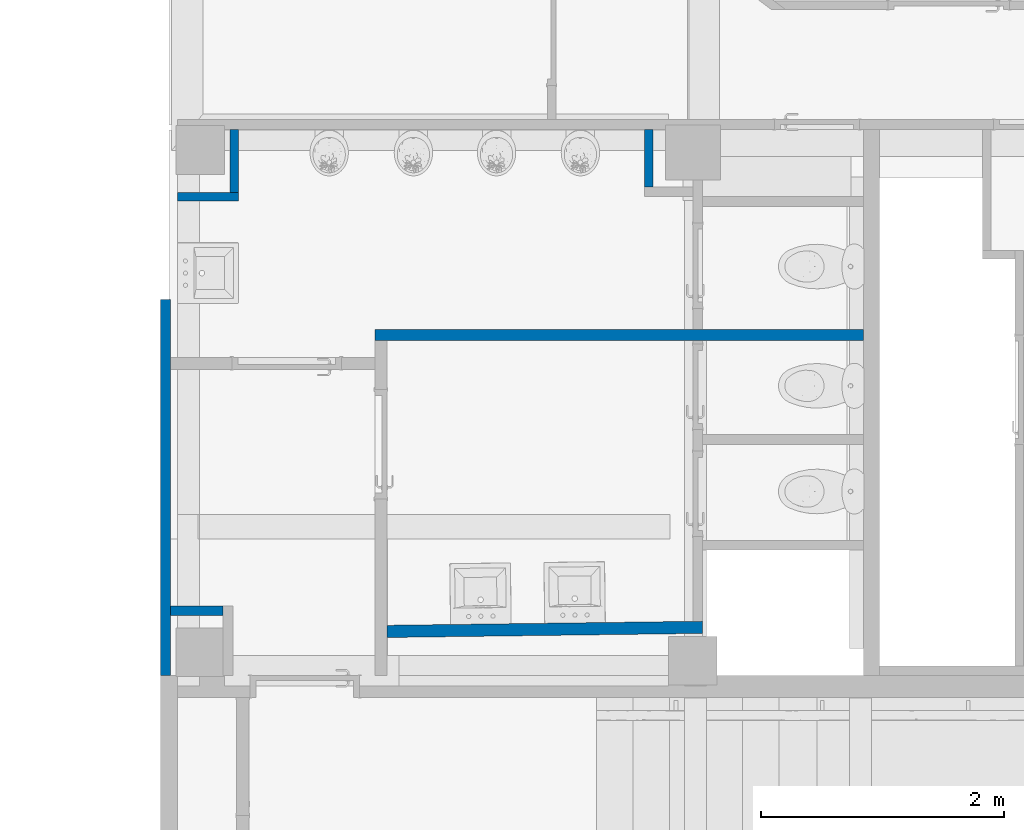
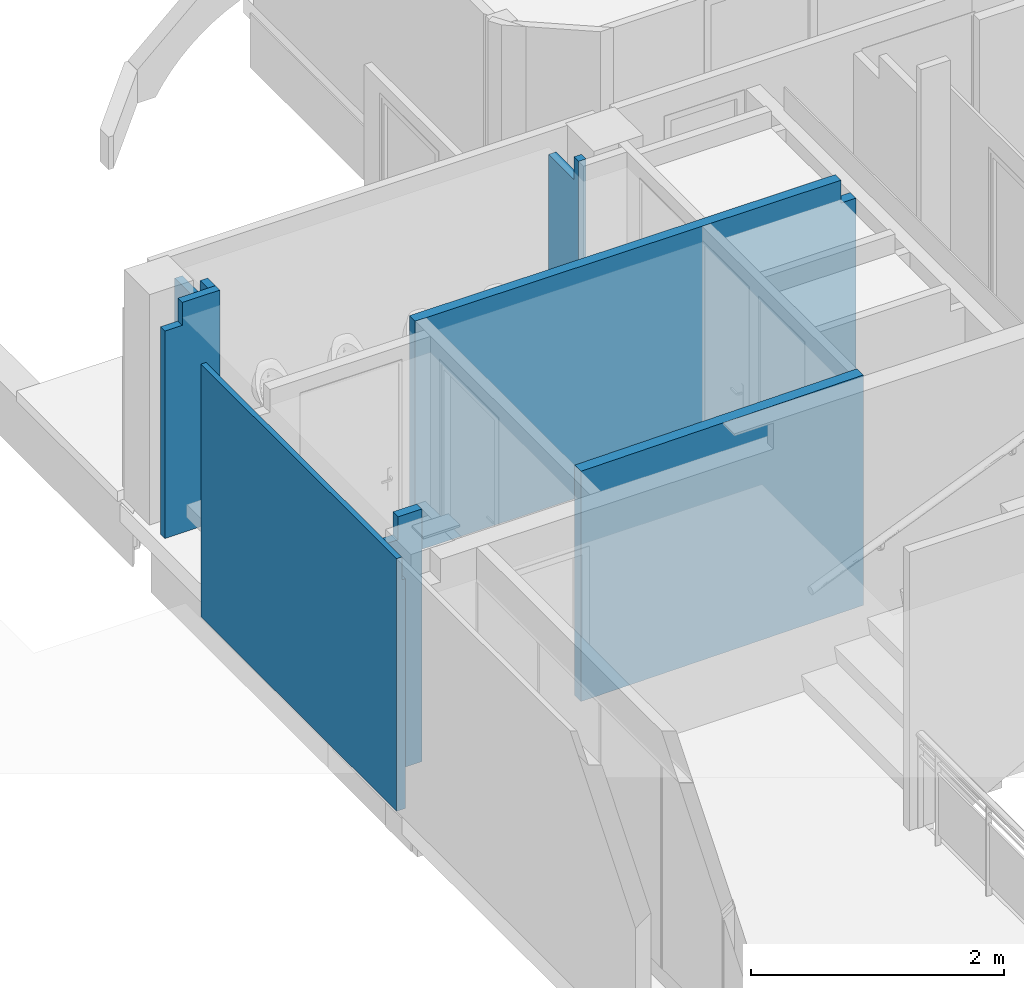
# One storey, part 16 of 32: 7 walls, 1 opening.
"""IFC4 building model written with IfcOpenShell, lengths in metres."""

from ifc_helpers import new_model, entity, si_unit, converted_unit, derived_unit, direction, frame, origin, place, context, subcontext, project, spatial, indexed_curve, outline, extrude, polygons, material, layer, layer_set, type_object, element, save


model = new_model("IFC4")

# Units and contexts
model_context = context("Model", 3, precision=1e-05, world=origin(), true_north=direction((6.12303176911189e-17, 1.0)))
body_context = subcontext(model_context, "Body", "Model", "MODEL_VIEW")
ifc_project = project(units=[si_unit("LENGTHUNIT", "METRE"), si_unit("AREAUNIT", "SQUARE_METRE"), si_unit("VOLUMEUNIT", "CUBIC_METRE"), converted_unit("PLANEANGLEUNIT", "DEGREE", entity("IfcRatioMeasure", 0.0174532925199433), si_unit("PLANEANGLEUNIT", "RADIAN"), dimensions=[0, 0, 0, 0, 0, 0, 0]), si_unit("MASSUNIT", "GRAM", prefix="KILO"), derived_unit("MASSDENSITYUNIT", [(si_unit("MASSUNIT", "GRAM", prefix="KILO"), 1), (si_unit("LENGTHUNIT", "METRE"), -3)]), derived_unit("MOMENTOFINERTIAUNIT", [(si_unit("LENGTHUNIT", "METRE"), 4)]), si_unit("TIMEUNIT", "SECOND"), si_unit("FREQUENCYUNIT", "HERTZ"), si_unit("THERMODYNAMICTEMPERATUREUNIT", "DEGREE_CELSIUS"), derived_unit("THERMALTRANSMITTANCEUNIT", [(si_unit("MASSUNIT", "GRAM", prefix="KILO"), 1), (si_unit("THERMODYNAMICTEMPERATUREUNIT", "KELVIN"), -1), (si_unit("TIMEUNIT", "SECOND"), -3)]), derived_unit("VOLUMETRICFLOWRATEUNIT", [(si_unit("LENGTHUNIT", "METRE"), 3), (si_unit("TIMEUNIT", "SECOND"), -1)]), si_unit("ELECTRICCURRENTUNIT", "AMPERE"), si_unit("ELECTRICVOLTAGEUNIT", "VOLT"), si_unit("POWERUNIT", "WATT"), si_unit("FORCEUNIT", "NEWTON", prefix="KILO"), si_unit("ILLUMINANCEUNIT", "LUX"), si_unit("LUMINOUSFLUXUNIT", "LUMEN"), si_unit("LUMINOUSINTENSITYUNIT", "CANDELA"), derived_unit("USERDEFINED", [(si_unit("MASSUNIT", "GRAM", prefix="KILO"), -1), (si_unit("LENGTHUNIT", "METRE"), -2), (si_unit("TIMEUNIT", "SECOND"), 3), (si_unit("LUMINOUSFLUXUNIT", "LUMEN"), 1)]), derived_unit("LINEARVELOCITYUNIT", [(si_unit("LENGTHUNIT", "METRE"), 1), (si_unit("TIMEUNIT", "SECOND"), -1)]), si_unit("PRESSUREUNIT", "PASCAL"), derived_unit("USERDEFINED", [(si_unit("LENGTHUNIT", "METRE"), -2), (si_unit("MASSUNIT", "GRAM", prefix="KILO"), 1), (si_unit("TIMEUNIT", "SECOND"), -2)]), derived_unit("LINEARFORCEUNIT", [(si_unit("MASSUNIT", "GRAM", prefix="KILO"), 1), (si_unit("LENGTHUNIT", "METRE"), 1), (si_unit("TIMEUNIT", "SECOND"), -2), (si_unit("LENGTHUNIT", "METRE"), -1)]), derived_unit("PLANARFORCEUNIT", [(si_unit("MASSUNIT", "GRAM", prefix="KILO"), 1), (si_unit("LENGTHUNIT", "METRE"), 1), (si_unit("TIMEUNIT", "SECOND"), -2), (si_unit("LENGTHUNIT", "METRE"), -2)])], contexts=[model_context])

# Site, building, storey
site_placement = place(None, origin())
site = spatial("IfcSite", under=ifc_project, at=site_placement, Name="Default", CompositionType="ELEMENT")
building_placement = place(site_placement, origin())
building = spatial("IfcBuilding", under=site, at=building_placement, Name="HOTEL CONSULAIRE BOULOGNE SUR MER", CompositionType="ELEMENT")
storey_placement = place(building_placement, frame((0.0, 0.0, -2.70343668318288)))
storey = spatial("IfcBuildingStorey", under=building, at=storey_placement, Name="SS1", CompositionType="ELEMENT", Elevation=-2.70343668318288)

# Walls
ifc_material = material(Name="Mur par défaut", Category="Divers")
ifc_layer_1 = layer(ifc_material, 0.07, Name="Mur par défaut", Category="Divers")
ifc_layer_set_1 = layer_set([ifc_layer_1], Name="Mur de base:Générique - Int. 70 mm")
wall_type_1 = type_object("IfcWallType", Name="Mur de base:Générique - Int. 70 mm", PredefinedType="NOTDEFINED", material=ifc_layer_set_1)
wall_1_placement = place(storey_placement, frame((-5.46198856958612, -15.9818192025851, 0.215)))
element("IfcWall", 1, at=wall_1_placement, inside=storey, type_object=wall_type_1, material=ifc_layer_set_1, Name="Mur de base:Générique - Int. 70 mm", ObjectType="Mur de base:Générique - Int. 70 mm", PredefinedType="NOTDEFINED", context=body_context, shape_type="Tessellation", body=[
    polygons([(-1.93898818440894e-16, -0.0349999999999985, 0.0), (0.499996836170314, -0.0349999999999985, 0.0), (0.499996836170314, -0.0349999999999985, 2.21843668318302), (0.157480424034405, -0.0349999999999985, 2.21843668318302), (0.157480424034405, -0.0349999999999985, 1.99843668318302), (-1.93898818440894e-16, -0.0349999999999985, 1.99843668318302), (0.499996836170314, 0.0350000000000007, 0.0), (0.429996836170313, 0.0350000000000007, 0.0), (-4.95935805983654e-16, 0.0350000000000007, 0.0), (-4.95935805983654e-16, 0.0350000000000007, 1.99843668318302), (0.157480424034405, 0.0350000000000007, 1.99843668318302), (0.157480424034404, 0.0350000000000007, 2.21843668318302), (0.429996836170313, 0.0350000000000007, 2.21843668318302), (0.499996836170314, 0.0350000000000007, 2.21843668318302)], [[[5, 6, 1, 2, 3, 4]], [[14, 7, 8, 9, 10, 11, 12, 13]], [[2, 1, 9, 8, 7]], [[4, 3, 14, 13, 12]], [[11, 10, 6, 5]], [[10, 9, 1, 6]], [[11, 5, 4, 12]], [[3, 2, 7, 14]]], closed=True),
])
wall_2_placement = place(storey_placement, frame((-4.9969917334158, -15.9468192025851, 0.215), z_axis=(0.0, 0.0, 1.0), x_axis=(0.0, 1.0, 0.0)))
element("IfcWall", 2, at=wall_2_placement, inside=storey, type_object=wall_type_1, material=ifc_layer_set_1, Name="Mur de base:Générique - Int. 70 mm", ObjectType="Mur de base:Générique - Int. 70 mm", PredefinedType="NOTDEFINED", context=body_context, shape_type="Tessellation", body=[
    polygons([(0.0, -0.0350000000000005, 0.0), (0.521125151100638, -0.0350000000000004, 0.0), (0.521125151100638, -0.0350000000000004, 1.99843668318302), (0.121125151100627, -0.0350000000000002, 1.99843668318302), (0.121125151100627, -0.0350000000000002, 2.21843668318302), (0.0, -0.0350000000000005, 2.21843668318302), (0.521125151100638, 0.035, 0.0), (0.0, 0.0349999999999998, 0.0), (0.0, 0.0349999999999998, 2.21843668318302), (0.121125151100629, 0.0350000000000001, 2.21843668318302), (0.121125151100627, 0.0350000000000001, 1.99843668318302), (0.521125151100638, 0.035, 1.99843668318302)], [[[5, 6, 1, 2, 3, 4]], [[7, 8, 9, 10, 11, 12]], [[2, 1, 8, 7]], [[6, 5, 10, 9]], [[11, 4, 3, 12]], [[8, 1, 6, 9]], [[2, 7, 12, 3]], [[10, 5, 4, 11]]], closed=True),
])
wall_3_placement = place(storey_placement, frame((-1.59146566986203, -15.4256940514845, 0.215), z_axis=(0.0, 0.0, 1.0), x_axis=(0.0, -1.0, 0.0)))
element("IfcWall", 3, at=wall_3_placement, inside=storey, type_object=wall_type_1, material=ifc_layer_set_1, Name="Mur de base:Générique - Int. 70 mm", ObjectType="Mur de base:Générique - Int. 70 mm", PredefinedType="NOTDEFINED", context=body_context, shape_type="Tessellation", body=[
    polygons([(0.0, -0.0350000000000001, 0.0), (0.472539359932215, -0.0349999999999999, 0.0), (0.472539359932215, -0.0349999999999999, 2.21843668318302), (0.400000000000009, -0.035, 2.21843668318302), (0.400000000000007, -0.035, 1.99843668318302), (0.0, -0.0350000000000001, 1.99843668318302), (0.472539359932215, 0.0350000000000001, 0.0), (0.0, 0.035, 0.0), (0.0, 0.035, 1.99843668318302), (0.400000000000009, 0.035, 1.99843668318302), (0.400000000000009, 0.035, 2.21843668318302), (0.472539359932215, 0.0350000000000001, 2.21843668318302)], [[[1, 2, 3, 4, 5, 6]], [[11, 12, 7, 8, 9, 10]], [[2, 1, 8, 7]], [[4, 3, 12, 11]], [[5, 10, 9, 6]], [[3, 2, 7, 12]], [[9, 8, 1, 6]], [[5, 4, 11, 10]]], closed=True),
])
ifc_layer_2 = layer(ifc_material, 0.1, Name="Mur par défaut", Category="Divers")
ifc_layer_set_2 = layer_set([ifc_layer_2], Name="Mur de base:Générique - Int. 100 mm")
wall_type_2 = type_object("IfcWallType", Name="Mur de base:Générique - Int. 100 mm", PredefinedType="NOTDEFINED", material=ifc_layer_set_2)
wall_4_placement = place(storey_placement, frame((-3.74235026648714, -19.5509884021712, 0.215), z_axis=(0.0, 0.0, 1.0), x_axis=(0.999915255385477, 0.0130185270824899, 0.0)))
element("IfcWall", 4, at=wall_4_placement, inside=storey, type_object=wall_type_2, material=ifc_layer_set_2, Name="Mur de base:Générique - Int. 100 mm", ObjectType="Mur de base:Générique - Int. 100 mm", PredefinedType="NOTDEFINED", context=body_context, shape_type="Tessellation", body=[
    polygons([(2.59309586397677, -0.0500000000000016, 2.21843668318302), (1.31974431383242e-15, -0.0500000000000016, 2.21843668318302), (2.36877184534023e-16, -0.0500000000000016, 0.0), (2.59309586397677, -0.0500000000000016, 0.0), (0.00130196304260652, 0.0499999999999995, 2.21843668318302), (2.51439104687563, 0.0499999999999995, 2.21843668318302), (2.59439782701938, 0.0499999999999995, 2.21843668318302), (2.59439782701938, 0.0499999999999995, 0.0), (0.00130196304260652, 0.0499999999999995, 0.0)], [[[2, 3, 4, 1]], [[7, 8, 9, 5, 6]], [[2, 1, 7, 6, 5]], [[1, 4, 8, 7]], [[9, 3, 2, 5]], [[4, 3, 9, 8]]], closed=True),
])
ifc_layer_3 = layer(ifc_material, 0.09, Name="Mur par défaut", Category="Divers")
ifc_layer_set_3 = layer_set([ifc_layer_3], Name="Mur de base:Générique - Int. 90")
wall_type_3 = type_object("IfcWallType", Name="Mur de base:Générique - Int. 90", PredefinedType="NOTDEFINED", material=ifc_layer_set_3)
wall_5_placement = place(storey_placement, frame((-3.84169934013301, -17.1139143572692, 0.215)))
element("IfcWall", 5, at=wall_5_placement, inside=storey, type_object=wall_type_3, material=ifc_layer_set_3, Name="Mur de base:Générique - Int. 90", ObjectType="Mur de base:Générique - Int. 90", PredefinedType="NOTDEFINED", context=body_context, shape_type="Tessellation", body=[
    polygons([(-6.47405783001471e-17, -0.0449999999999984, 2.21843668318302), (-6.47405783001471e-17, -0.0449999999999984, 0.0), (2.61287611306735, -0.0449999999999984, 0.0), (2.69287611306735, -0.0449999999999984, 0.0), (4.01396753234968, -0.0449999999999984, 0.0), (4.01396753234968, -0.0449999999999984, 1.99843668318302), (3.87923951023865, -0.0449999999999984, 1.99843668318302), (3.87923951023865, -0.0449999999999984, 2.21843668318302), (2.69287611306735, -0.0449999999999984, 2.21843668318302), (2.61287611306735, -0.0449999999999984, 2.21843668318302), (0.0999999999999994, -0.0449999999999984, 2.21843668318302), (-3.56907226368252e-16, 0.0450000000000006, 0.0), (-3.56907226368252e-16, 0.0450000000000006, 2.21843668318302), (2.61287611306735, 0.0450000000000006, 2.21843668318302), (2.69287611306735, 0.0450000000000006, 2.21843668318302), (3.87923951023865, 0.0450000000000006, 2.21843668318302), (3.87923951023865, 0.0450000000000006, 1.99843668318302), (4.01396753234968, 0.0450000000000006, 1.99843668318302), (4.01396753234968, 0.0450000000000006, 0.0), (2.69287611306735, 0.0450000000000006, 0.0), (2.61287611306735, 0.0450000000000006, 0.0)], [[[2, 3, 4, 5, 6, 7, 8, 9, 10, 11, 1]], [[19, 20, 21, 12, 13, 14, 15, 16, 17, 18]], [[9, 8, 16, 15, 14, 13, 1, 11, 10]], [[18, 17, 7, 6]], [[13, 12, 2, 1]], [[2, 12, 21, 20, 19, 5, 4, 3]], [[5, 19, 18, 6]], [[17, 16, 8, 7]]], closed=True),
])

# Wall, opening
ifc_layer_4 = layer(ifc_material, 0.08, Name="Mur par défaut", Category="Divers")
ifc_layer_set_4 = layer_set([ifc_layer_4], Name="Mur de base:Générique - Int. 80")
wall_type_4 = type_object("IfcWallType", Name="Mur de base:Générique - Int. 80", PredefinedType="NOTDEFINED", material=ifc_layer_set_4)
wall_6_placement = place(storey_placement, frame((-5.56198856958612, -16.8245842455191, 0.0), z_axis=(0.0, 0.0, 1.0), x_axis=(0.0, -1.0, 0.0)))
wall_6 = element("IfcWall", 6, at=wall_6_placement, inside=storey, type_object=wall_type_4, material=ifc_layer_set_4, Name="Mur de base:Générique - Int. 80", ObjectType="Mur de base:Générique - Int. 80", PredefinedType="NOTDEFINED", context=body_context, shape_type="Tessellation", body=[
    polygons([(0.0, -0.040000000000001, 0.0), (3.09033011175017, -0.0400000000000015, 0.0), (3.09033011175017, -0.0400000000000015, 2.43343668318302), (0.0, -0.040000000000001, 2.43343668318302), (3.09033011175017, 0.0399999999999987, 0.0), (2.59673260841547, 0.039999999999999, 0.0), (2.51673260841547, 0.0399999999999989, 0.0), (0.0, 0.0399999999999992, 0.0), (0.0, 0.0399999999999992, 0.0450000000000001), (1.96595421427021, 0.0399999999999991, 0.0450000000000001), (1.96595421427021, 0.0399999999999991, 0.215), (0.0, 0.0399999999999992, 0.215), (0.0, 0.0399999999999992, 2.21343668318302), (0.474554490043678, 0.0399999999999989, 2.21343668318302), (0.574554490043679, 0.039999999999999, 2.21343668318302), (2.51673260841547, 0.0399999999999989, 2.21343668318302), (2.59673260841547, 0.039999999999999, 2.21343668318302), (3.09033011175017, 0.0399999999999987, 2.21343668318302), (3.09033011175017, 0.00748042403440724, 2.43343668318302), (0.0, 0.00748042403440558, 2.43343668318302), (3.09033011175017, 0.00748042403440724, 2.21343668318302), (0.0, 0.00748042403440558, 2.21343668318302), (0.0, 0.0300000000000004, 0.215), (0.0, 0.0299999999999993, 0.0450000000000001), (1.96595421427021, 0.0299999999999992, 0.0450000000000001), (1.96595421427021, 0.0299999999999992, 0.215)], [[[4, 1, 2, 3]], [[17, 18, 5, 6, 7, 8, 9, 10, 11, 12, 13, 14, 15, 16]], [[23, 26, 25, 24]], [[22, 20, 19, 21]], [[2, 1, 8, 7, 6, 5]], [[26, 23, 12, 11]], [[4, 3, 19, 20]], [[24, 25, 10, 9]], [[17, 16, 15, 14, 13, 22, 21, 18]], [[5, 18, 21, 19, 3, 2]], [[22, 13, 12, 23, 24, 9, 8, 1, 4, 20]], [[11, 10, 25, 26]]], closed=True),
])
opening_placement = place(storey_placement, frame((-5.56198856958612, -16.8245842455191, 0.0), z_axis=(0.0, 0.0, 1.0), x_axis=(0.0, -1.0, 0.0)))
element("IfcOpeningElement", 7, at=opening_placement, cuts=wall_6, Name="Mur de base:Générique - Int. 80:1", ObjectType="Opening", PredefinedType="OPENING", context=body_context, shape_type="SweptSolid", body=[
    extrude(outline(indexed_curve([(-0.00500000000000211, -0.982977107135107), (0.00499999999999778, -0.982977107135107), (0.00500000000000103, 0.982977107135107), (-0.00499999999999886, 0.982977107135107), (-0.00500000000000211, -0.982977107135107)], self_intersect=False)), frame((0.982977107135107, 0.0349999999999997, 0.0450000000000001), z_axis=(0.0, 0.0, 1.0), x_axis=(0.0, 1.0, 0.0)), (0.0, 0.0, 1.0), 0.17),
])

# Wall
wall_7_placement = place(storey_placement, frame((-5.08822520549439, -19.3813168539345, 0.0), z_axis=(0.0, 0.0, 1.0), x_axis=(-1.0, 0.0, 0.0)))
element("IfcWall", 8, at=wall_7_placement, inside=storey, type_object=wall_type_4, material=ifc_layer_set_4, Name="Mur de base:Générique - Int. 80", ObjectType="Mur de base:Générique - Int. 80", PredefinedType="NOTDEFINED", context=body_context, shape_type="Tessellation", body=[
    polygons([(6.7872669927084e-16, -0.0399999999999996, 0.0), (0.43376336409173, -0.0399999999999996, 0.0), (0.43376336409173, -0.0399999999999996, 2.21343668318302), (0.216282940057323, -0.0400000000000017, 2.21343668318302), (0.216282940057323, -0.0400000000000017, 2.43343668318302), (6.7872669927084e-16, -0.0399999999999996, 2.43343668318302), (0.433763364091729, 0.0399999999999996, 0.0), (3.41131588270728e-16, 0.0399999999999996, 0.0), (3.41131588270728e-16, 0.0399999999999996, 2.43343668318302), (0.216282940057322, 0.0399999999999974, 2.43343668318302), (0.216282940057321, 0.0399999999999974, 2.21343668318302), (0.433763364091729, 0.0399999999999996, 2.21343668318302)], [[[5, 6, 1, 2, 3, 4]], [[7, 8, 9, 10, 11, 12]], [[2, 1, 8, 7]], [[6, 5, 10, 9]], [[4, 3, 12, 11]], [[8, 1, 6, 9]], [[3, 2, 7, 12]], [[4, 11, 10, 5]]], closed=True),
])

save(model, "model.ifc")
